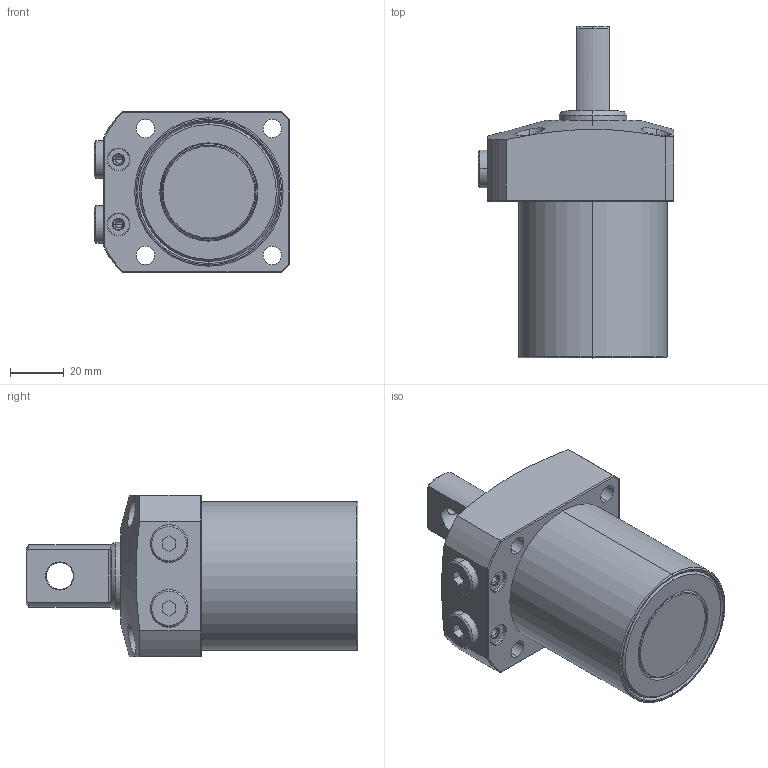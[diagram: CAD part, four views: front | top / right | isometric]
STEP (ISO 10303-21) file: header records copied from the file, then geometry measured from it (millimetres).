
FILE_DESCRIPTION (( 'STEP AP203' ), '1' );
FILE_NAME ('20450-CR-P.step', '2019-06-24T03:11:20', ( '微软用户' ), ( '微软中国' ), 'SwSTEP 2.0', 'SolidWorks 2014', '' );
FILE_SCHEMA (( 'CONFIG_CONTROL_DESIGN' ));
Length unit declared in the file: millimetre
Products named in the file (5): 20450-CR-P; 20450-C-P-1^20450-CR-P; 20450-C-P-2^20450-CR-P; 20450-C-P-3^20450-CR-P; 20450-C-P-4^20450-CR-P
Assembly tree (5 placements, depth 2):
  20450-CR-P
    20450-C-P-1^20450-CR-P
    20450-C-P-2^20450-CR-P
    20450-C-P-3^20450-CR-P
    20450-C-P-4^20450-CR-P  x2
Bounding box: 72.5 x 123 x 60 mm (x, y, z)
Volume: 263815.3 mm3; surface area: 37374.3 mm2
Topology: 5 solids, 5 shells, 171 faces, 397 edges, 249 vertices
Faces by surface type: cylinder 67, plane 51, cone 41, torus 12
Entity records: 5727 total; most frequent: CARTESIAN_POINT 1506, DIRECTION 814, ORIENTED_EDGE 738, EDGE_CURVE 369, AXIS2_PLACEMENT_3D 337, VERTEX_POINT 231, EDGE_LOOP 186, CIRCLE 171
